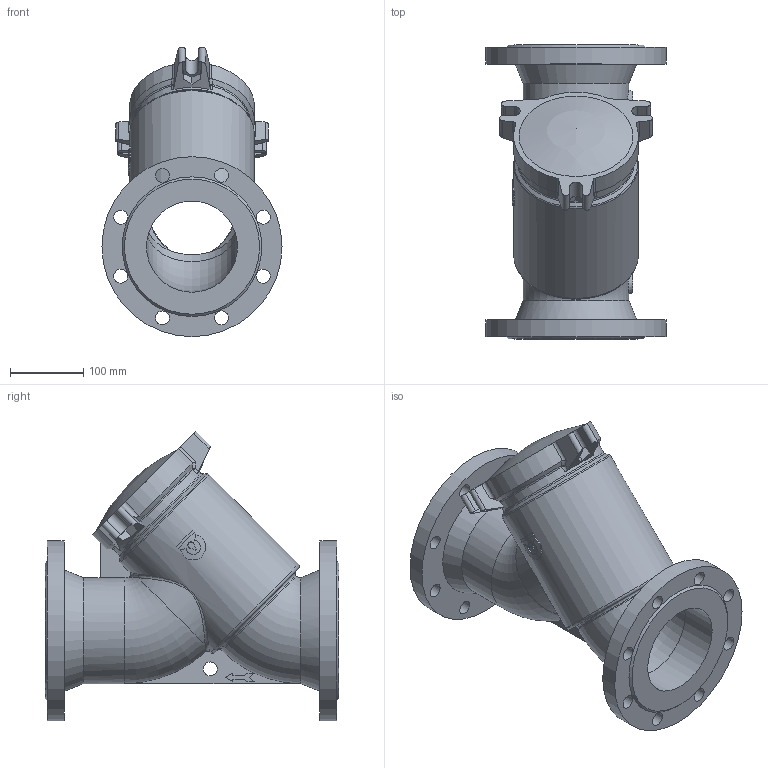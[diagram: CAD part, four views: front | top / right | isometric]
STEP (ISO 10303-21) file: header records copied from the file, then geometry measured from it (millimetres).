
FILE_DESCRIPTION(('STEP AP203'), '1');
FILE_NAME('Ôèëüòð ñåò÷àòûé ôëàíöåâûé 021Y.M DN125 PN10_PN16', '', ('UNSPECIFIED'), ('UNSPECIFIED'), 'ASCON STEP Converter 1.6', 'ASCON Math Kernel', '');
FILE_SCHEMA(('CONFIG_CONTROL_DESIGN'));
Length unit declared in the file: millimetre
Bounding box: 245 x 400 x 393.8 mm (x, y, z)
Volume: 4533889.9 mm3; surface area: 686698.5 mm2
Topology: 1 solids, 1 shells, 197 faces, 522 edges, 334 vertices
Faces by surface type: plane 84, cylinder 65, bspline 18, torus 15, cone 14, sphere 1
Full cylindrical faces by diameter (mm): 19 x17, 124 x4, 138 x2, 144 x1, 150 x1, 245 x2
Entity records: 14332 total; most frequent: CARTESIAN_POINT 8148, ORIENTED_EDGE 954, DIRECTION 846, EDGE_CURVE 477, VERTEX_POINT 332, AXIS2_PLACEMENT_3D 322, EDGE_LOOP 283, FACE_BOUND 213
